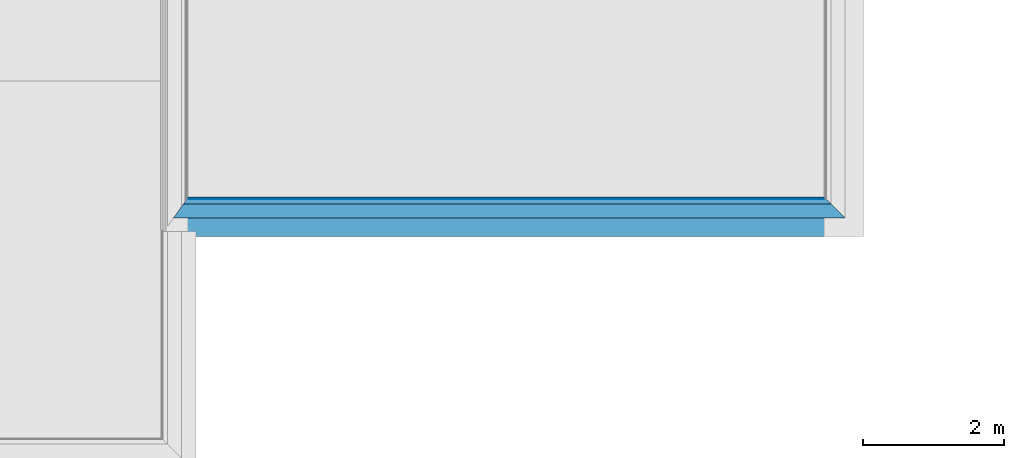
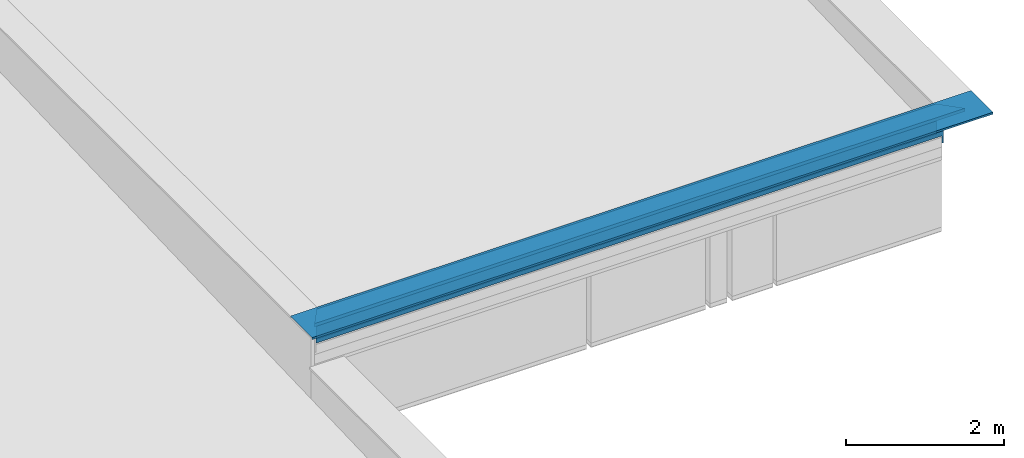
# One storey, part 8 of 13: 4 building element parts, 1 element without a shape of its own.
"""IFC2X3 building model written with IfcOpenShell, lengths in metres."""

from ifc_helpers import new_model, entity, si_unit, converted_unit, derived_unit, money_unit, direction, frame, origin_with_axes, place, context, subcontext, project, spatial, polyline, outline, extrude, boolean, faceted_brep, material, type_object, element, aggregate, save


model = new_model("IFC2X3")

# Units and contexts
model_context = context("Model", 3, precision=1e-05, world=origin_with_axes(), true_north=direction((0.0, 1.0)))
body_context = subcontext(model_context, "Body", "Model", "MODEL_VIEW")
ifc_project = project(units=[si_unit("LENGTHUNIT", "METRE"), si_unit("AREAUNIT", "SQUARE_METRE"), si_unit("VOLUMEUNIT", "CUBIC_METRE"), converted_unit("PLANEANGLEUNIT", "DEGREE", entity("IfcPlaneAngleMeasure", 0.0174532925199), si_unit("PLANEANGLEUNIT", "RADIAN"), dimensions=[0, 0, 0, 0, 0, 0, 0]), money_unit("CHF"), converted_unit("TIMEUNIT", "Year", entity("IfcTimeMeasure", 31556926.0), si_unit("TIMEUNIT", "SECOND"), dimensions=[0, 0, 1, 0, 0, 0, 0]), si_unit("MASSUNIT", "GRAM", prefix="KILO"), si_unit("THERMODYNAMICTEMPERATUREUNIT", "DEGREE_CELSIUS"), si_unit("LUMINOUSINTENSITYUNIT", "LUMEN"), si_unit("ENERGYUNIT", "JOULE", prefix="MEGA"), derived_unit("THERMALCONDUCTANCEUNIT", [(si_unit("POWERUNIT", "WATT"), 1), (si_unit("LENGTHUNIT", "METRE"), -1), (si_unit("THERMODYNAMICTEMPERATUREUNIT", "KELVIN"), -1)]), derived_unit("SPECIFICHEATCAPACITYUNIT", [(si_unit("ENERGYUNIT", "JOULE"), 1), (si_unit("MASSUNIT", "GRAM", prefix="KILO"), -1), (si_unit("THERMODYNAMICTEMPERATUREUNIT", "KELVIN"), -1)]), derived_unit("MASSDENSITYUNIT", [(si_unit("MASSUNIT", "GRAM", prefix="KILO"), 1), (si_unit("VOLUMEUNIT", "CUBIC_METRE"), -1)])], contexts=[model_context])

# Site, building, storey
site_placement = place(None, origin_with_axes())
site = spatial("IfcSite", under=ifc_project, at=site_placement, Name="Site", CompositionType="ELEMENT")
building_placement = place(site_placement, origin_with_axes())
building = spatial("IfcBuilding", under=site, at=building_placement, Name="Bâtiment", CompositionType="ELEMENT")
storey_placement = place(building_placement, frame((0.0, 0.0, 3.0), z_axis=(0.0, 0.0, 1.0), x_axis=(1.0, 0.0, 0.0)))
storey = spatial("IfcBuildingStorey", under=building, at=storey_placement, Name="Toitures", CompositionType="ELEMENT", Elevation=3.0)

# Beam, building element parts
beam_type = type_object("IfcBeamType", Name="Couvertine mur bardage 555 x 590", PredefinedType="BEAM")
beam_placement = place(storey_placement, frame((24.3494697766, 6.46012566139, 1.47), z_axis=(0.0, 0.0, 1.0), x_axis=(0.0, -1.0, 0.0)))
beam = element("IfcBeam", 1, at=beam_placement, inside=storey, type_object=beam_type, Name="POUTRE-001", ObjectType="BEAM")
ifc_material_1 = material(Name="Etanchéité")
building_element_part_1_placement = place(beam_placement, origin_with_axes())
building_element_part_1 = element("IfcBuildingElementPart", 2, at=building_element_part_1_placement, material=ifc_material_1, Name="Etanchéité", context=body_context, shape_type="CSG", body=[
    boolean("DIFFERENCE", boolean("DIFFERENCE", boolean("DIFFERENCE", boolean("DIFFERENCE", boolean("DIFFERENCE", boolean("DIFFERENCE", extrude(outline(polyline([(-0.175, -0.589639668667), (-0.165000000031, -0.589639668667), (-0.165000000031, -0.0549999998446), (-0.165000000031, -0.005), (-0.175, -0.005), (-0.175, -0.589639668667)])), frame((0.0, 9.76002000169, 0.0), z_axis=(0.0, -1.0, 0.0), x_axis=(1.0, 0.0, 0.0)), (0.0, 0.0, 1.0), 9.95504000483), faceted_brep([(-0.175, 9.225, -0.005), (-0.165000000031, 9.23499999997, -0.005), (-0.165000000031, 9.76002000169, -0.005), (-0.175, 9.76002000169, -0.005), (-0.165000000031, 9.23499999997, -0.0549999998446), (-0.175, 9.225, -0.474044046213), (-0.165000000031, 9.23499999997, -0.474394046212), (-0.165000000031, 9.76002000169, -0.0549999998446), (-0.165000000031, 9.76002000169, -0.589639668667), (-0.175, 9.76002000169, -0.589639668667), (-0.175, -0.195020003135, -0.589639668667), (-0.175, -0.195020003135, -0.005), (-0.175, 0.180945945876, -0.005), (-0.175, 0.180945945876, -0.474044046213), (-0.165000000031, 0.173918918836, -0.474394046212), (-0.165000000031, 0.173918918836, -0.0549999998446), (-0.165000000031, -0.195020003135, -0.0549999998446), (-0.165000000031, -0.195020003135, -0.589639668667), (-0.165000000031, -0.195020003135, -0.005), (-0.165000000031, 0.173918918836, -0.005)], [[[0, 1, 2, 3]], [[4, 1, 0, 5, 6]], [[1, 4, 7, 2]], [[7, 8, 9, 3, 2]], [[5, 0, 3, 9, 10, 11, 12, 13]], [[14, 6, 5, 13]], [[14, 15, 16, 17, 8, 7, 4, 6]], [[17, 10, 9, 8]], [[18, 11, 10, 17, 16]], [[19, 12, 11, 18]], [[13, 12, 19, 15, 14]], [[15, 19, 18, 16]]])), faceted_brep([(0.360000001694, -0.195020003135, 3.12924708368e-09), (0.360000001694, -0.195000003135, 3.12924708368e-09), (-0.195, 0.195, 3.12924708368e-09), (-0.195, -0.195020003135, 3.12924708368e-09), (0.360000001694, -0.195020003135, -0.029999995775), (0.360000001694, -0.195000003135, -0.029999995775), (-0.190000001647, 0.191486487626, -0.029999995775), (-0.195, 0.195, -0.029999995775), (0.354999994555, -0.191486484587, -0.029999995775), (0.354999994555, -0.191486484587, -0.00499999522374), (0.1, -0.0122972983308, -0.005), (-0.165, 0.173918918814, -0.005), (-0.174999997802, 0.180945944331, -0.00500000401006), (-0.190000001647, 0.191486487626, -0.00499999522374), (-0.195, -0.195020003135, -0.029999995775), (-0.190000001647, -0.195020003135, -0.029999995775), (-0.190000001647, -0.195020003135, -0.00499999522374), (-0.174999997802, -0.195020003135, -0.00500000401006), (-0.165000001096, -0.195020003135, -0.00500000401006), (0.0999999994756, -0.195020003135, -0.00499999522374), (0.354999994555, -0.195020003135, -0.00499999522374), (0.354999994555, -0.195020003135, -0.029999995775)], [[[0, 1, 2, 3]], [[4, 5, 1, 0]], [[6, 7, 2, 1, 5, 8, 9, 10, 11, 12, 13]], [[3, 2, 7, 14]], [[0, 3, 14, 15, 16, 17, 18, 19, 20, 21, 4]], [[21, 8, 5, 4]], [[14, 7, 6, 15]], [[20, 9, 8, 21]], [[19, 10, 9, 20]], [[18, 11, 10, 19]], [[17, 12, 11, 18]], [[16, 13, 12, 17]], [[15, 6, 13, 16]]])), faceted_brep([(-0.195, 9.76002000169, 3.12924708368e-09), (-0.195, 9.205, 3.12924708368e-09), (0.360000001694, 9.76000000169, 3.12924708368e-09), (0.360000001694, 9.76002000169, 3.12924708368e-09), (-0.195, 9.76002000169, -0.029999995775), (-0.195, 9.205, -0.029999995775), (0.354999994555, 9.75499999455, -0.029999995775), (0.360000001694, 9.76000000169, -0.029999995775), (-0.190000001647, 9.20999999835, -0.029999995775), (-0.190000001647, 9.20999999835, -0.00499999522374), (-0.174999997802, 9.2250000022, -0.00500000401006), (-0.165, 9.235, -0.005), (0.1, 9.5, -0.005), (0.354999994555, 9.75499999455, -0.00499999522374), (0.360000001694, 9.76002000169, -0.029999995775), (-0.190000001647, 9.76002000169, -0.00499999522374), (-0.190000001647, 9.76002000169, -0.029999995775), (0.354999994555, 9.76002000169, -0.029999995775), (0.354999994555, 9.76002000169, -0.00499999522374), (0.0999999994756, 9.76002000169, -0.00499999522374), (-0.165000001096, 9.76002000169, -0.00500000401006), (-0.174999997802, 9.76002000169, -0.00500000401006)], [[[0, 1, 2, 3]], [[4, 5, 1, 0]], [[6, 7, 2, 1, 5, 8, 9, 10, 11, 12, 13]], [[3, 2, 7, 14]], [[15, 16, 4, 0, 3, 14, 17, 18, 19, 20, 21]], [[16, 8, 5, 4]], [[14, 7, 6, 17]], [[15, 9, 8, 16]], [[21, 10, 9, 15]], [[20, 11, 10, 21]], [[19, 12, 11, 20]], [[18, 13, 12, 19]], [[17, 6, 13, 18]]])), faceted_brep([(-0.165, 9.76002000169, -0.0549999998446), (-0.165, 9.235, -0.0549999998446), (-0.0999999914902, 9.30000000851, -0.0549999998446), (-0.0999999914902, 9.76002000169, -0.0549999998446), (-0.165, 0.173918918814, -0.474394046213), (-0.165, 9.235, -0.474394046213), (-0.165, 9.76002000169, -0.589639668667), (-0.165, -0.195020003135, -0.589639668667), (-0.165, -0.195020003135, -0.0549999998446), (-0.165, 0.173918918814, -0.0549999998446), (-0.119999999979, 9.28000000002, -0.589639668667), (-0.0999999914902, 9.30000000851, -0.589639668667), (-0.12, 9.28, -0.475969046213), (-0.0999999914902, 9.76002000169, -0.589639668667), (-0.1, 0.128243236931, -0.476669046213), (-0.1, 9.28, -0.476669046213), (-0.100000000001, 9.28000000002, -0.589639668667), (-0.0999999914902, -0.195020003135, -0.589639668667), (-0.0999999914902, -0.195020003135, -0.0549999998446), (-0.0999999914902, 0.128243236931, -0.0549999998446)], [[[0, 1, 2, 3]], [[4, 5, 1, 0, 6, 7, 8, 9]], [[10, 11, 2, 1, 5, 12]], [[3, 2, 11, 13]], [[6, 0, 3, 13]], [[4, 14, 15, 12, 5]], [[11, 10, 16, 17, 7, 6, 13]], [[7, 17, 18, 8]], [[18, 19, 9, 8]], [[14, 4, 9, 19]], [[15, 16, 10, 12]], [[15, 14, 19, 18, 17, 16]]])), faceted_brep([(0.1, -0.195020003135, -0.005), (0.1, -0.0122972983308, -0.005), (-0.165, 0.173918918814, -0.005), (-0.165, -0.195020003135, -0.005), (0.1, -0.195020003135, -0.055), (0.1, -0.0122972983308, -0.055), (-0.0999999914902, 0.128243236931, -0.0549999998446), (-0.165, 0.173918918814, -0.055), (-0.165, -0.195020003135, -0.055), (-0.0999999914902, -0.195020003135, -0.0549999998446)], [[[0, 1, 2, 3]], [[4, 5, 1, 0]], [[6, 7, 2, 1, 5]], [[3, 2, 7, 8]], [[9, 4, 0, 3, 8]], [[9, 6, 5, 4]], [[8, 7, 6, 9]]])), faceted_brep([(-0.165, 9.76002000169, -0.005), (-0.165, 9.235, -0.005), (0.1, 9.5, -0.005), (0.1, 9.76002000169, -0.005), (-0.165, 9.76002000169, -0.055), (-0.165, 9.235, -0.055), (-0.0999999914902, 9.30000000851, -0.0549999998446), (0.1, 9.5, -0.055), (0.1, 9.76002000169, -0.055), (-0.0999999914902, 9.76002000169, -0.0549999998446)], [[[0, 1, 2, 3]], [[4, 5, 1, 0]], [[6, 7, 2, 1, 5]], [[3, 2, 7, 8]], [[4, 0, 3, 8, 9]], [[9, 6, 5, 4]], [[8, 7, 6, 9]]])),
])
ifc_material_2 = material(Name="Aluminium")
building_element_part_2_placement = place(beam_placement, origin_with_axes())
building_element_part_2 = element("IfcBuildingElementPart", 3, at=building_element_part_2_placement, material=ifc_material_2, Name="Aluminium", context=body_context, shape_type="CSG", body=[
    boolean("DIFFERENCE", boolean("DIFFERENCE", boolean("DIFFERENCE", boolean("DIFFERENCE", boolean("DIFFERENCE", boolean("DIFFERENCE", extrude(outline(polyline([(-0.195, -0.029999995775), (-0.190000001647, -0.029999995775), (-0.190000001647, -0.00499999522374), (-0.174999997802, -0.00500000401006), (-0.165000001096, -0.00500000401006), (0.0999999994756, -0.00499999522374), (0.354999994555, -0.00499999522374), (0.354999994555, -0.029999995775), (0.360000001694, -0.029999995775), (0.360000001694, 3.12924697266e-09), (-0.195, 3.12924697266e-09), (-0.195, -0.029999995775)])), frame((0.0, 9.76002000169, 0.0), z_axis=(0.0, -1.0, 0.0), x_axis=(1.0, 0.0, 0.0)), (0.0, 0.0, 1.0), 9.95504000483), faceted_brep([(-0.175, 9.225, -0.005), (-0.165000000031, 9.23499999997, -0.005), (-0.165000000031, 9.76002000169, -0.005), (-0.175, 9.76002000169, -0.005), (-0.165000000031, 9.23499999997, -0.0549999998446), (-0.175, 9.225, -0.474044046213), (-0.165000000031, 9.23499999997, -0.474394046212), (-0.165000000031, 9.76002000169, -0.0549999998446), (-0.165000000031, 9.76002000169, -0.589639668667), (-0.175, 9.76002000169, -0.589639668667), (-0.175, -0.195020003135, -0.589639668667), (-0.175, -0.195020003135, -0.005), (-0.175, 0.180945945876, -0.005), (-0.175, 0.180945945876, -0.474044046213), (-0.165000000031, 0.173918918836, -0.474394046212), (-0.165000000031, 0.173918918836, -0.0549999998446), (-0.165000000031, -0.195020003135, -0.0549999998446), (-0.165000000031, -0.195020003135, -0.589639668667), (-0.165000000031, -0.195020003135, -0.005), (-0.165000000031, 0.173918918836, -0.005)], [[[0, 1, 2, 3]], [[4, 1, 0, 5, 6]], [[1, 4, 7, 2]], [[7, 8, 9, 3, 2]], [[5, 0, 3, 9, 10, 11, 12, 13]], [[14, 6, 5, 13]], [[14, 15, 16, 17, 8, 7, 4, 6]], [[17, 10, 9, 8]], [[18, 11, 10, 17, 16]], [[19, 12, 11, 18]], [[13, 12, 19, 15, 14]], [[15, 19, 18, 16]]])), faceted_brep([(0.360000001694, -0.195020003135, 3.12924708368e-09), (0.360000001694, -0.195000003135, 3.12924708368e-09), (-0.195, 0.195, 3.12924708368e-09), (-0.195, -0.195020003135, 3.12924708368e-09), (0.360000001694, -0.195020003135, -0.029999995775), (0.360000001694, -0.195000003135, -0.029999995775), (-0.190000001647, 0.191486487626, -0.029999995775), (-0.195, 0.195, -0.029999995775), (0.354999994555, -0.191486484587, -0.029999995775), (0.354999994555, -0.191486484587, -0.00499999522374), (0.1, -0.0122972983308, -0.005), (-0.165, 0.173918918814, -0.005), (-0.174999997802, 0.180945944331, -0.00500000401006), (-0.190000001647, 0.191486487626, -0.00499999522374), (-0.195, -0.195020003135, -0.029999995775), (-0.190000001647, -0.195020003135, -0.029999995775), (-0.190000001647, -0.195020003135, -0.00499999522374), (-0.174999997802, -0.195020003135, -0.00500000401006), (-0.165000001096, -0.195020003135, -0.00500000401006), (0.0999999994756, -0.195020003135, -0.00499999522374), (0.354999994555, -0.195020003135, -0.00499999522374), (0.354999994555, -0.195020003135, -0.029999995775)], [[[0, 1, 2, 3]], [[4, 5, 1, 0]], [[6, 7, 2, 1, 5, 8, 9, 10, 11, 12, 13]], [[3, 2, 7, 14]], [[0, 3, 14, 15, 16, 17, 18, 19, 20, 21, 4]], [[21, 8, 5, 4]], [[14, 7, 6, 15]], [[20, 9, 8, 21]], [[19, 10, 9, 20]], [[18, 11, 10, 19]], [[17, 12, 11, 18]], [[16, 13, 12, 17]], [[15, 6, 13, 16]]])), faceted_brep([(-0.195, 9.76002000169, 3.12924708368e-09), (-0.195, 9.205, 3.12924708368e-09), (0.360000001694, 9.76000000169, 3.12924708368e-09), (0.360000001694, 9.76002000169, 3.12924708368e-09), (-0.195, 9.76002000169, -0.029999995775), (-0.195, 9.205, -0.029999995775), (0.354999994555, 9.75499999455, -0.029999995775), (0.360000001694, 9.76000000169, -0.029999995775), (-0.190000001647, 9.20999999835, -0.029999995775), (-0.190000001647, 9.20999999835, -0.00499999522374), (-0.174999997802, 9.2250000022, -0.00500000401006), (-0.165, 9.235, -0.005), (0.1, 9.5, -0.005), (0.354999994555, 9.75499999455, -0.00499999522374), (0.360000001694, 9.76002000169, -0.029999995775), (-0.190000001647, 9.76002000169, -0.00499999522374), (-0.190000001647, 9.76002000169, -0.029999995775), (0.354999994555, 9.76002000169, -0.029999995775), (0.354999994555, 9.76002000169, -0.00499999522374), (0.0999999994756, 9.76002000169, -0.00499999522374), (-0.165000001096, 9.76002000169, -0.00500000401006), (-0.174999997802, 9.76002000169, -0.00500000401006)], [[[0, 1, 2, 3]], [[4, 5, 1, 0]], [[6, 7, 2, 1, 5, 8, 9, 10, 11, 12, 13]], [[3, 2, 7, 14]], [[15, 16, 4, 0, 3, 14, 17, 18, 19, 20, 21]], [[16, 8, 5, 4]], [[14, 7, 6, 17]], [[15, 9, 8, 16]], [[21, 10, 9, 15]], [[20, 11, 10, 21]], [[19, 12, 11, 20]], [[18, 13, 12, 19]], [[17, 6, 13, 18]]])), faceted_brep([(-0.165, 9.76002000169, -0.0549999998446), (-0.165, 9.235, -0.0549999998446), (-0.0999999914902, 9.30000000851, -0.0549999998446), (-0.0999999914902, 9.76002000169, -0.0549999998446), (-0.165, 0.173918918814, -0.474394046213), (-0.165, 9.235, -0.474394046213), (-0.165, 9.76002000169, -0.589639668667), (-0.165, -0.195020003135, -0.589639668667), (-0.165, -0.195020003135, -0.0549999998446), (-0.165, 0.173918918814, -0.0549999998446), (-0.119999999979, 9.28000000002, -0.589639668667), (-0.0999999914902, 9.30000000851, -0.589639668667), (-0.12, 9.28, -0.475969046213), (-0.0999999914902, 9.76002000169, -0.589639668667), (-0.1, 0.128243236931, -0.476669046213), (-0.1, 9.28, -0.476669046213), (-0.100000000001, 9.28000000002, -0.589639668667), (-0.0999999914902, -0.195020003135, -0.589639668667), (-0.0999999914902, -0.195020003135, -0.0549999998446), (-0.0999999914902, 0.128243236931, -0.0549999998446)], [[[0, 1, 2, 3]], [[4, 5, 1, 0, 6, 7, 8, 9]], [[10, 11, 2, 1, 5, 12]], [[3, 2, 11, 13]], [[6, 0, 3, 13]], [[4, 14, 15, 12, 5]], [[11, 10, 16, 17, 7, 6, 13]], [[7, 17, 18, 8]], [[18, 19, 9, 8]], [[14, 4, 9, 19]], [[15, 16, 10, 12]], [[15, 14, 19, 18, 17, 16]]])), faceted_brep([(0.1, -0.195020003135, -0.005), (0.1, -0.0122972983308, -0.005), (-0.165, 0.173918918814, -0.005), (-0.165, -0.195020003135, -0.005), (0.1, -0.195020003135, -0.055), (0.1, -0.0122972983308, -0.055), (-0.0999999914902, 0.128243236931, -0.0549999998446), (-0.165, 0.173918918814, -0.055), (-0.165, -0.195020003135, -0.055), (-0.0999999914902, -0.195020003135, -0.0549999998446)], [[[0, 1, 2, 3]], [[4, 5, 1, 0]], [[6, 7, 2, 1, 5]], [[3, 2, 7, 8]], [[9, 4, 0, 3, 8]], [[9, 6, 5, 4]], [[8, 7, 6, 9]]])), faceted_brep([(-0.165, 9.76002000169, -0.005), (-0.165, 9.235, -0.005), (0.1, 9.5, -0.005), (0.1, 9.76002000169, -0.005), (-0.165, 9.76002000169, -0.055), (-0.165, 9.235, -0.055), (-0.0999999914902, 9.30000000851, -0.0549999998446), (0.1, 9.5, -0.055), (0.1, 9.76002000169, -0.055), (-0.0999999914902, 9.76002000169, -0.0549999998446)], [[[0, 1, 2, 3]], [[4, 5, 1, 0]], [[6, 7, 2, 1, 5]], [[3, 2, 7, 8]], [[4, 0, 3, 8, 9]], [[9, 6, 5, 4]], [[8, 7, 6, 9]]])),
])
ifc_material_3 = material(Name="Isolation - Polyuréthane (extérieur)")
building_element_part_3_placement = place(beam_placement, origin_with_axes())
building_element_part_3 = element("IfcBuildingElementPart", 4, at=building_element_part_3_placement, material=ifc_material_3, Name="Isolation - Polyuréthane (extérieur)", context=body_context, shape_type="CSG", body=[
    boolean("DIFFERENCE", boolean("DIFFERENCE", boolean("DIFFERENCE", boolean("DIFFERENCE", boolean("DIFFERENCE", boolean("DIFFERENCE", extrude(outline(polyline([(-0.0999999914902, -0.0549999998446), (-0.165, -0.0549999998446), (-0.165, -0.589639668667), (-0.0999999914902, -0.589639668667), (-0.0999999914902, -0.0549999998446)])), frame((0.0, 9.76002000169, 0.0), z_axis=(0.0, -1.0, 0.0), x_axis=(1.0, 0.0, 0.0)), (0.0, 0.0, 1.0), 9.95504000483), faceted_brep([(-0.175, 9.225, -0.005), (-0.165000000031, 9.23499999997, -0.005), (-0.165000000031, 9.76002000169, -0.005), (-0.175, 9.76002000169, -0.005), (-0.165000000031, 9.23499999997, -0.0549999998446), (-0.175, 9.225, -0.474044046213), (-0.165000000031, 9.23499999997, -0.474394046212), (-0.165000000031, 9.76002000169, -0.0549999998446), (-0.165000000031, 9.76002000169, -0.589639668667), (-0.175, 9.76002000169, -0.589639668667), (-0.175, -0.195020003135, -0.589639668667), (-0.175, -0.195020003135, -0.005), (-0.175, 0.180945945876, -0.005), (-0.175, 0.180945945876, -0.474044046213), (-0.165000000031, 0.173918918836, -0.474394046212), (-0.165000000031, 0.173918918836, -0.0549999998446), (-0.165000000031, -0.195020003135, -0.0549999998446), (-0.165000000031, -0.195020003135, -0.589639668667), (-0.165000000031, -0.195020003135, -0.005), (-0.165000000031, 0.173918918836, -0.005)], [[[0, 1, 2, 3]], [[4, 1, 0, 5, 6]], [[1, 4, 7, 2]], [[7, 8, 9, 3, 2]], [[5, 0, 3, 9, 10, 11, 12, 13]], [[14, 6, 5, 13]], [[14, 15, 16, 17, 8, 7, 4, 6]], [[17, 10, 9, 8]], [[18, 11, 10, 17, 16]], [[19, 12, 11, 18]], [[13, 12, 19, 15, 14]], [[15, 19, 18, 16]]])), faceted_brep([(0.360000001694, -0.195020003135, 3.12924708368e-09), (0.360000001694, -0.195000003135, 3.12924708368e-09), (-0.195, 0.195, 3.12924708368e-09), (-0.195, -0.195020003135, 3.12924708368e-09), (0.360000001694, -0.195020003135, -0.029999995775), (0.360000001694, -0.195000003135, -0.029999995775), (-0.190000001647, 0.191486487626, -0.029999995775), (-0.195, 0.195, -0.029999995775), (0.354999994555, -0.191486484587, -0.029999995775), (0.354999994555, -0.191486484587, -0.00499999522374), (0.1, -0.0122972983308, -0.005), (-0.165, 0.173918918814, -0.005), (-0.174999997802, 0.180945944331, -0.00500000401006), (-0.190000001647, 0.191486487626, -0.00499999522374), (-0.195, -0.195020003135, -0.029999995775), (-0.190000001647, -0.195020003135, -0.029999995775), (-0.190000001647, -0.195020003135, -0.00499999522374), (-0.174999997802, -0.195020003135, -0.00500000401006), (-0.165000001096, -0.195020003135, -0.00500000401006), (0.0999999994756, -0.195020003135, -0.00499999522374), (0.354999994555, -0.195020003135, -0.00499999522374), (0.354999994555, -0.195020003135, -0.029999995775)], [[[0, 1, 2, 3]], [[4, 5, 1, 0]], [[6, 7, 2, 1, 5, 8, 9, 10, 11, 12, 13]], [[3, 2, 7, 14]], [[0, 3, 14, 15, 16, 17, 18, 19, 20, 21, 4]], [[21, 8, 5, 4]], [[14, 7, 6, 15]], [[20, 9, 8, 21]], [[19, 10, 9, 20]], [[18, 11, 10, 19]], [[17, 12, 11, 18]], [[16, 13, 12, 17]], [[15, 6, 13, 16]]])), faceted_brep([(-0.195, 9.76002000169, 3.12924708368e-09), (-0.195, 9.205, 3.12924708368e-09), (0.360000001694, 9.76000000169, 3.12924708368e-09), (0.360000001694, 9.76002000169, 3.12924708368e-09), (-0.195, 9.76002000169, -0.029999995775), (-0.195, 9.205, -0.029999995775), (0.354999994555, 9.75499999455, -0.029999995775), (0.360000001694, 9.76000000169, -0.029999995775), (-0.190000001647, 9.20999999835, -0.029999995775), (-0.190000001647, 9.20999999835, -0.00499999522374), (-0.174999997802, 9.2250000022, -0.00500000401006), (-0.165, 9.235, -0.005), (0.1, 9.5, -0.005), (0.354999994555, 9.75499999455, -0.00499999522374), (0.360000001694, 9.76002000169, -0.029999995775), (-0.190000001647, 9.76002000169, -0.00499999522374), (-0.190000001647, 9.76002000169, -0.029999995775), (0.354999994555, 9.76002000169, -0.029999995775), (0.354999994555, 9.76002000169, -0.00499999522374), (0.0999999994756, 9.76002000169, -0.00499999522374), (-0.165000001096, 9.76002000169, -0.00500000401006), (-0.174999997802, 9.76002000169, -0.00500000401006)], [[[0, 1, 2, 3]], [[4, 5, 1, 0]], [[6, 7, 2, 1, 5, 8, 9, 10, 11, 12, 13]], [[3, 2, 7, 14]], [[15, 16, 4, 0, 3, 14, 17, 18, 19, 20, 21]], [[16, 8, 5, 4]], [[14, 7, 6, 17]], [[15, 9, 8, 16]], [[21, 10, 9, 15]], [[20, 11, 10, 21]], [[19, 12, 11, 20]], [[18, 13, 12, 19]], [[17, 6, 13, 18]]])), faceted_brep([(-0.165, 9.76002000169, -0.0549999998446), (-0.165, 9.235, -0.0549999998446), (-0.0999999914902, 9.30000000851, -0.0549999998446), (-0.0999999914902, 9.76002000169, -0.0549999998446), (-0.165, 0.173918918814, -0.474394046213), (-0.165, 9.235, -0.474394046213), (-0.165, 9.76002000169, -0.589639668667), (-0.165, -0.195020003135, -0.589639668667), (-0.165, -0.195020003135, -0.0549999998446), (-0.165, 0.173918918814, -0.0549999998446), (-0.119999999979, 9.28000000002, -0.589639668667), (-0.0999999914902, 9.30000000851, -0.589639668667), (-0.12, 9.28, -0.475969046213), (-0.0999999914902, 9.76002000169, -0.589639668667), (-0.1, 0.128243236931, -0.476669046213), (-0.1, 9.28, -0.476669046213), (-0.100000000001, 9.28000000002, -0.589639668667), (-0.0999999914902, -0.195020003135, -0.589639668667), (-0.0999999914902, -0.195020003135, -0.0549999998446), (-0.0999999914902, 0.128243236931, -0.0549999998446)], [[[0, 1, 2, 3]], [[4, 5, 1, 0, 6, 7, 8, 9]], [[10, 11, 2, 1, 5, 12]], [[3, 2, 11, 13]], [[6, 0, 3, 13]], [[4, 14, 15, 12, 5]], [[11, 10, 16, 17, 7, 6, 13]], [[7, 17, 18, 8]], [[18, 19, 9, 8]], [[14, 4, 9, 19]], [[15, 16, 10, 12]], [[15, 14, 19, 18, 17, 16]]])), faceted_brep([(0.1, -0.195020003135, -0.005), (0.1, -0.0122972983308, -0.005), (-0.165, 0.173918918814, -0.005), (-0.165, -0.195020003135, -0.005), (0.1, -0.195020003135, -0.055), (0.1, -0.0122972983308, -0.055), (-0.0999999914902, 0.128243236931, -0.0549999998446), (-0.165, 0.173918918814, -0.055), (-0.165, -0.195020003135, -0.055), (-0.0999999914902, -0.195020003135, -0.0549999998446)], [[[0, 1, 2, 3]], [[4, 5, 1, 0]], [[6, 7, 2, 1, 5]], [[3, 2, 7, 8]], [[9, 4, 0, 3, 8]], [[9, 6, 5, 4]], [[8, 7, 6, 9]]])), faceted_brep([(-0.165, 9.76002000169, -0.005), (-0.165, 9.235, -0.005), (0.1, 9.5, -0.005), (0.1, 9.76002000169, -0.005), (-0.165, 9.76002000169, -0.055), (-0.165, 9.235, -0.055), (-0.0999999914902, 9.30000000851, -0.0549999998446), (0.1, 9.5, -0.055), (0.1, 9.76002000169, -0.055), (-0.0999999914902, 9.76002000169, -0.0549999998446)], [[[0, 1, 2, 3]], [[4, 5, 1, 0]], [[6, 7, 2, 1, 5]], [[3, 2, 7, 8]], [[4, 0, 3, 8, 9]], [[9, 6, 5, 4]], [[8, 7, 6, 9]]])),
])
building_element_part_4_placement = place(beam_placement, origin_with_axes())
building_element_part_4 = element("IfcBuildingElementPart", 5, at=building_element_part_4_placement, material=ifc_material_3, Name="Isolation - Polyuréthane (extérieur)", context=body_context, shape_type="CSG", body=[
    boolean("DIFFERENCE", boolean("DIFFERENCE", boolean("DIFFERENCE", boolean("DIFFERENCE", boolean("DIFFERENCE", boolean("DIFFERENCE", extrude(outline(polyline([(0.1, -0.005), (-0.165, -0.005), (-0.165, -0.055), (-0.0999999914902, -0.0549999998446), (0.1, -0.055), (0.1, -0.005)])), frame((0.0, 9.76002000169, 0.0), z_axis=(0.0, -1.0, 0.0), x_axis=(1.0, 0.0, 0.0)), (0.0, 0.0, 1.0), 9.95504000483), faceted_brep([(-0.175, 9.225, -0.005), (-0.165000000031, 9.23499999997, -0.005), (-0.165000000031, 9.76002000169, -0.005), (-0.175, 9.76002000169, -0.005), (-0.165000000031, 9.23499999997, -0.0549999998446), (-0.175, 9.225, -0.474044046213), (-0.165000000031, 9.23499999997, -0.474394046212), (-0.165000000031, 9.76002000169, -0.0549999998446), (-0.165000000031, 9.76002000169, -0.589639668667), (-0.175, 9.76002000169, -0.589639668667), (-0.175, -0.195020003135, -0.589639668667), (-0.175, -0.195020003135, -0.005), (-0.175, 0.180945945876, -0.005), (-0.175, 0.180945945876, -0.474044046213), (-0.165000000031, 0.173918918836, -0.474394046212), (-0.165000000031, 0.173918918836, -0.0549999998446), (-0.165000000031, -0.195020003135, -0.0549999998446), (-0.165000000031, -0.195020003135, -0.589639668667), (-0.165000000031, -0.195020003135, -0.005), (-0.165000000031, 0.173918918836, -0.005)], [[[0, 1, 2, 3]], [[4, 1, 0, 5, 6]], [[1, 4, 7, 2]], [[7, 8, 9, 3, 2]], [[5, 0, 3, 9, 10, 11, 12, 13]], [[14, 6, 5, 13]], [[14, 15, 16, 17, 8, 7, 4, 6]], [[17, 10, 9, 8]], [[18, 11, 10, 17, 16]], [[19, 12, 11, 18]], [[13, 12, 19, 15, 14]], [[15, 19, 18, 16]]])), faceted_brep([(0.360000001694, -0.195020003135, 3.12924708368e-09), (0.360000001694, -0.195000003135, 3.12924708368e-09), (-0.195, 0.195, 3.12924708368e-09), (-0.195, -0.195020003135, 3.12924708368e-09), (0.360000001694, -0.195020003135, -0.029999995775), (0.360000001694, -0.195000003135, -0.029999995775), (-0.190000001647, 0.191486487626, -0.029999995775), (-0.195, 0.195, -0.029999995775), (0.354999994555, -0.191486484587, -0.029999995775), (0.354999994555, -0.191486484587, -0.00499999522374), (0.1, -0.0122972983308, -0.005), (-0.165, 0.173918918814, -0.005), (-0.174999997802, 0.180945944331, -0.00500000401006), (-0.190000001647, 0.191486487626, -0.00499999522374), (-0.195, -0.195020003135, -0.029999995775), (-0.190000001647, -0.195020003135, -0.029999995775), (-0.190000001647, -0.195020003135, -0.00499999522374), (-0.174999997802, -0.195020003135, -0.00500000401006), (-0.165000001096, -0.195020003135, -0.00500000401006), (0.0999999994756, -0.195020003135, -0.00499999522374), (0.354999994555, -0.195020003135, -0.00499999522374), (0.354999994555, -0.195020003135, -0.029999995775)], [[[0, 1, 2, 3]], [[4, 5, 1, 0]], [[6, 7, 2, 1, 5, 8, 9, 10, 11, 12, 13]], [[3, 2, 7, 14]], [[0, 3, 14, 15, 16, 17, 18, 19, 20, 21, 4]], [[21, 8, 5, 4]], [[14, 7, 6, 15]], [[20, 9, 8, 21]], [[19, 10, 9, 20]], [[18, 11, 10, 19]], [[17, 12, 11, 18]], [[16, 13, 12, 17]], [[15, 6, 13, 16]]])), faceted_brep([(-0.195, 9.76002000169, 3.12924708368e-09), (-0.195, 9.205, 3.12924708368e-09), (0.360000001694, 9.76000000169, 3.12924708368e-09), (0.360000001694, 9.76002000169, 3.12924708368e-09), (-0.195, 9.76002000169, -0.029999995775), (-0.195, 9.205, -0.029999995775), (0.354999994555, 9.75499999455, -0.029999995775), (0.360000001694, 9.76000000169, -0.029999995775), (-0.190000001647, 9.20999999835, -0.029999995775), (-0.190000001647, 9.20999999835, -0.00499999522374), (-0.174999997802, 9.2250000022, -0.00500000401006), (-0.165, 9.235, -0.005), (0.1, 9.5, -0.005), (0.354999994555, 9.75499999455, -0.00499999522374), (0.360000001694, 9.76002000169, -0.029999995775), (-0.190000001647, 9.76002000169, -0.00499999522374), (-0.190000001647, 9.76002000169, -0.029999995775), (0.354999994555, 9.76002000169, -0.029999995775), (0.354999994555, 9.76002000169, -0.00499999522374), (0.0999999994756, 9.76002000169, -0.00499999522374), (-0.165000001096, 9.76002000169, -0.00500000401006), (-0.174999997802, 9.76002000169, -0.00500000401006)], [[[0, 1, 2, 3]], [[4, 5, 1, 0]], [[6, 7, 2, 1, 5, 8, 9, 10, 11, 12, 13]], [[3, 2, 7, 14]], [[15, 16, 4, 0, 3, 14, 17, 18, 19, 20, 21]], [[16, 8, 5, 4]], [[14, 7, 6, 17]], [[15, 9, 8, 16]], [[21, 10, 9, 15]], [[20, 11, 10, 21]], [[19, 12, 11, 20]], [[18, 13, 12, 19]], [[17, 6, 13, 18]]])), faceted_brep([(-0.165, 9.76002000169, -0.0549999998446), (-0.165, 9.235, -0.0549999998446), (-0.0999999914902, 9.30000000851, -0.0549999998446), (-0.0999999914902, 9.76002000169, -0.0549999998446), (-0.165, 0.173918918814, -0.474394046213), (-0.165, 9.235, -0.474394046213), (-0.165, 9.76002000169, -0.589639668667), (-0.165, -0.195020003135, -0.589639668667), (-0.165, -0.195020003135, -0.0549999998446), (-0.165, 0.173918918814, -0.0549999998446), (-0.119999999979, 9.28000000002, -0.589639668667), (-0.0999999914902, 9.30000000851, -0.589639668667), (-0.12, 9.28, -0.475969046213), (-0.0999999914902, 9.76002000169, -0.589639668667), (-0.1, 0.128243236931, -0.476669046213), (-0.1, 9.28, -0.476669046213), (-0.100000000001, 9.28000000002, -0.589639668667), (-0.0999999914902, -0.195020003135, -0.589639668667), (-0.0999999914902, -0.195020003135, -0.0549999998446), (-0.0999999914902, 0.128243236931, -0.0549999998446)], [[[0, 1, 2, 3]], [[4, 5, 1, 0, 6, 7, 8, 9]], [[10, 11, 2, 1, 5, 12]], [[3, 2, 11, 13]], [[6, 0, 3, 13]], [[4, 14, 15, 12, 5]], [[11, 10, 16, 17, 7, 6, 13]], [[7, 17, 18, 8]], [[18, 19, 9, 8]], [[14, 4, 9, 19]], [[15, 16, 10, 12]], [[15, 14, 19, 18, 17, 16]]])), faceted_brep([(0.1, -0.195020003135, -0.005), (0.1, -0.0122972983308, -0.005), (-0.165, 0.173918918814, -0.005), (-0.165, -0.195020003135, -0.005), (0.1, -0.195020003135, -0.055), (0.1, -0.0122972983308, -0.055), (-0.0999999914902, 0.128243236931, -0.0549999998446), (-0.165, 0.173918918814, -0.055), (-0.165, -0.195020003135, -0.055), (-0.0999999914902, -0.195020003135, -0.0549999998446)], [[[0, 1, 2, 3]], [[4, 5, 1, 0]], [[6, 7, 2, 1, 5]], [[3, 2, 7, 8]], [[9, 4, 0, 3, 8]], [[9, 6, 5, 4]], [[8, 7, 6, 9]]])), faceted_brep([(-0.165, 9.76002000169, -0.005), (-0.165, 9.235, -0.005), (0.1, 9.5, -0.005), (0.1, 9.76002000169, -0.005), (-0.165, 9.76002000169, -0.055), (-0.165, 9.235, -0.055), (-0.0999999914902, 9.30000000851, -0.0549999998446), (0.1, 9.5, -0.055), (0.1, 9.76002000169, -0.055), (-0.0999999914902, 9.76002000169, -0.0549999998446)], [[[0, 1, 2, 3]], [[4, 5, 1, 0]], [[6, 7, 2, 1, 5]], [[3, 2, 7, 8]], [[4, 0, 3, 8, 9]], [[9, 6, 5, 4]], [[8, 7, 6, 9]]])),
])
aggregate(beam, [building_element_part_1, building_element_part_2, building_element_part_3, building_element_part_4])

save(model, "model.ifc")
